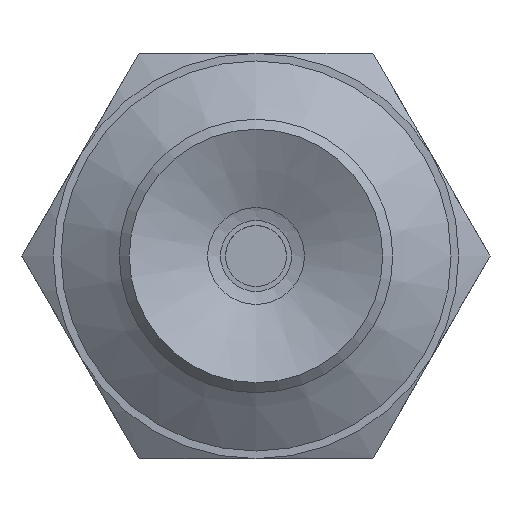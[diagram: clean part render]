
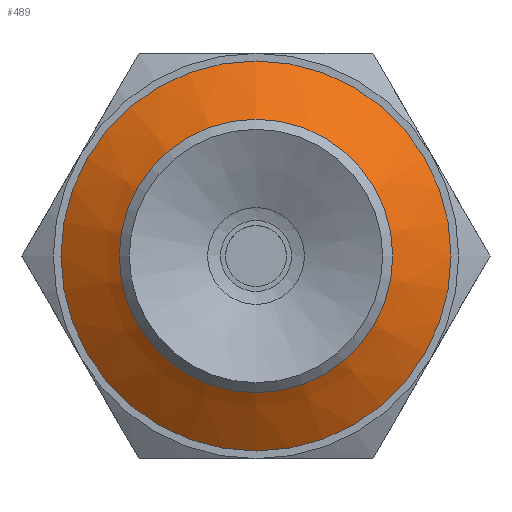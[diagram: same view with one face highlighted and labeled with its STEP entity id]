
A CAD part, front view. The second image highlights one B-rep face of the part: STEP entity #489.
In plain terms, the highlighted conical face has half-angle 55 degrees and reference radius 1.794 mm.
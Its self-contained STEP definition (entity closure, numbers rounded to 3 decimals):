
#489=ADVANCED_FACE('',(#725,#726),#727,.T.);
#725=FACE_BOUND('',#992,.T.);
#726=FACE_OUTER_BOUND('',#993,.T.);
#727=CONICAL_SURFACE('',#994,1.794,0.96);
#992=EDGE_LOOP('',(#1696));
#993=EDGE_LOOP('',(#1697));
#994=AXIS2_PLACEMENT_3D('',#1698,#1699,#1700);
#1696=ORIENTED_EDGE('',*,*,#1948,.T.);
#1697=ORIENTED_EDGE('',*,*,#1945,.T.);
#1698=CARTESIAN_POINT('',(0.0,7.118,0.));
#1699=DIRECTION('',(0.0,1.0,0.));
#1700=DIRECTION('',(0.0,0.,1.0));
#1945=EDGE_CURVE('',#2248,#2248,#2249,.T.);
#1948=EDGE_CURVE('',#2254,#2254,#2255,.T.);
#2248=VERTEX_POINT('',#2942);
#2249=CIRCLE('',#2943,3.85);
#2254=VERTEX_POINT('',#2948);
#2255=CIRCLE('',#2949,2.114);
#2942=CARTESIAN_POINT('',(0.0,8.558,-3.85));
#2943=AXIS2_PLACEMENT_3D('',#3218,#3219,#3220);
#2948=CARTESIAN_POINT('',(0.0,7.342,2.114));
#2949=AXIS2_PLACEMENT_3D('',#3227,#3228,#3229);
#3218=CARTESIAN_POINT('',(0.0,8.558,0.));
#3219=DIRECTION('',(0.0,-1.0,0.));
#3220=DIRECTION('',(0.0,0.,-1.0));
#3227=CARTESIAN_POINT('',(0.0,7.342,0.));
#3228=DIRECTION('',(0.0,1.0,0.));
#3229=DIRECTION('',(0.0,0.,1.0));
